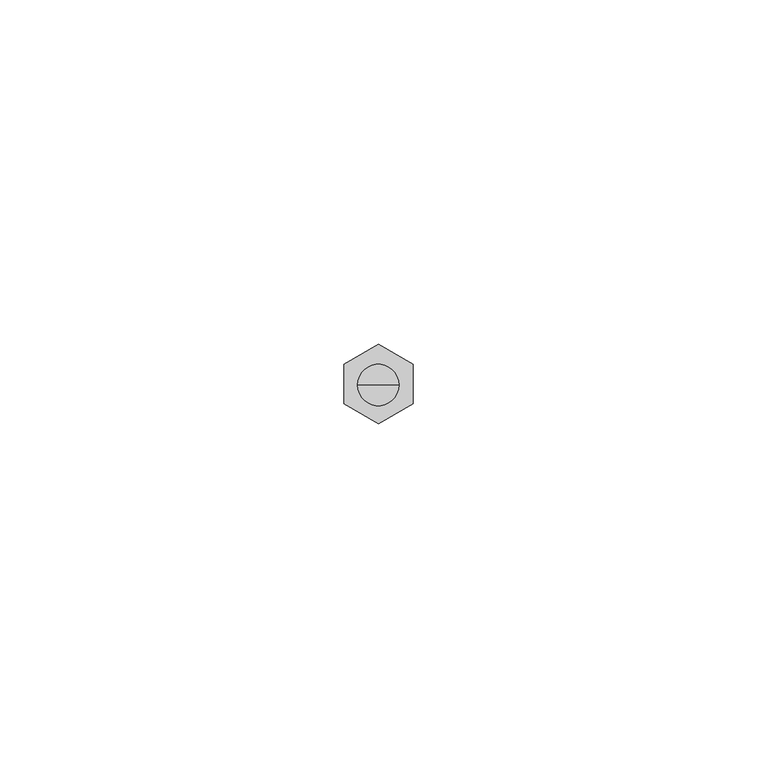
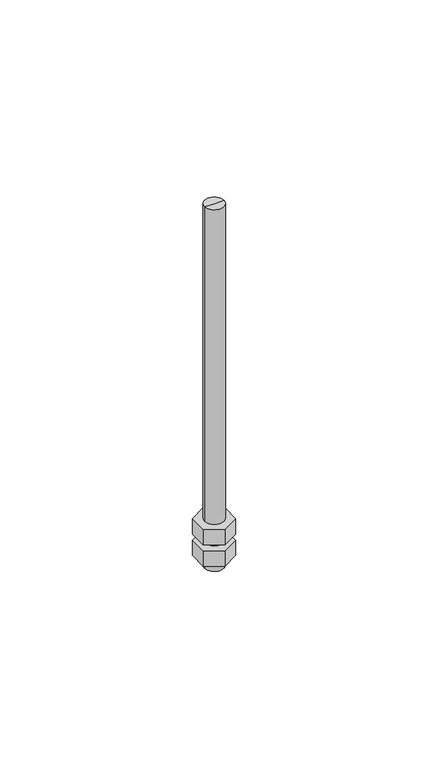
"""IFC4 building model written with IfcOpenShell, lengths in millimetres: proxy geometry, durlum_threaded_rod_M6 : durlum_threaded_rod_M6."""

from ifc_helpers import new_model, si_unit, frame, origin, origin_with_axes, place, context, project, spatial, polyline, circle_curve, outline, extrude, source, transform, mapped, element, save
from ifc_brep_helpers import plane_surface, cylinder_surface, advanced_brep


def generic_models_2887c913(model_context):
    return source(origin(), model_context, "Body", "SolidModel", [
        extrude(outline(polyline([(5.0, 3.0421914), (5.0, -2.7313113), (0.0, -5.6180626), (-5.0, -2.7313113), (-5.0, 3.0421914), (0.0, 5.9289428), (5.0, 3.0421914)])), frame((0.0, 0.0, -7.0), z_axis=(0.0, 0.0, 1.0), x_axis=(1.0, 0.0, 0.0)), (0.0, 0.0, 1.0), 5.0),
        extrude(outline(polyline([(5.0, 3.0421914), (5.0, -2.7313113), (0.0, -5.6180626), (-5.0, -2.7313113), (-5.0, 3.0421914), (0.0, 5.9289428), (5.0, 3.0421914)])), origin_with_axes(), (0.0, 0.0, 1.0), 5.0),
        advanced_brep(
        [(-3.0, 0.0, 107.8333422), (3.0, 0.0, 107.8333422), (3.0, 0.0, -10.0), (-3.0, 0.0, -10.0), (0.0, 0.0, 107.8333422), (0.0, 0.0, -10.0)],
        [
            (0, 1, circle_curve(frame((0.0, 0.0, 107.8333422), z_axis=(0.0, 0.0, -1.0), x_axis=(1.0, 0.0, 0.0)), 3.0)),
            (1, 2),
            (2, 3, circle_curve(frame((0.0, 0.0, -10.0), z_axis=(0.0, 0.0, 1.0), x_axis=(1.0, 0.0, 0.0)), 3.0)),
            (3, 0),
            (1, 0, circle_curve(frame((0.0, 0.0, 107.8333422), z_axis=(0.0, 0.0, -1.0), x_axis=(1.0, 0.0, 0.0)), 3.0)),
            (3, 2, circle_curve(frame((0.0, 0.0, -10.0), z_axis=(0.0, 0.0, 1.0), x_axis=(1.0, 0.0, 0.0)), 3.0)),
            (4, 1),
            (0, 4),
            (2, 5),
            (5, 3),
        ],
        [
            cylinder_surface(frame((0.0, 0.0, -675.0), z_axis=(0.0, 0.0, 1.0), x_axis=(1.0, 0.0, 0.0)), 3.0),
            plane_surface(frame((0.0, 0.0, 107.8333422), z_axis=(0.0, 0.0, 1.0), x_axis=(1.0, 0.0, 0.0))),
            plane_surface(frame((0.0, 0.0, -10.0), z_axis=(0.0, 0.0, -1.0), x_axis=(1.0, 0.0, 0.0))),
        ],
        [
            (0, [[1, 2, 3, 4]]),
            (0, [[5, -4, 6, -2]]),
            (1, [[7, -1, 8]]),
            (1, [[-8, -5, -7]]),
            (2, [[-3, 9, 10]]),
            (2, [[-6, -10, -9]]),
        ],
    ),
    ])


if __name__ == "__main__":
    model = new_model("IFC4")
    model_context = context("Model", 3, world=origin())
    ifc_project = project(units=[si_unit("LENGTHUNIT", "METRE", prefix="MILLI")], contexts=[model_context])
    site = spatial("IfcSite", under=ifc_project)
    building = spatial("IfcBuilding", under=site)
    placement = place(None, origin())
    generic_models_shape = generic_models_2887c913(model_context)
    element("IfcBuildingElementProxy", 1, Name="durlum_threaded_rod_M6 : durlum_threaded_rod_M6", ObjectType="durlum_threaded_rod_M6 : durlum_threaded_rod_M6", at=placement, inside=building, context=model_context, shape_type="MappedRepresentation", body=[
        mapped(generic_models_shape, transform((0.0, 0.0, 0.0), x_axis=(1.0, 0.0, 0.0), y_axis=(0.0, 1.0, 0.0), z_axis=(0.0, 0.0, 1.0))),
    ])
    save(model, "model.ifc")
